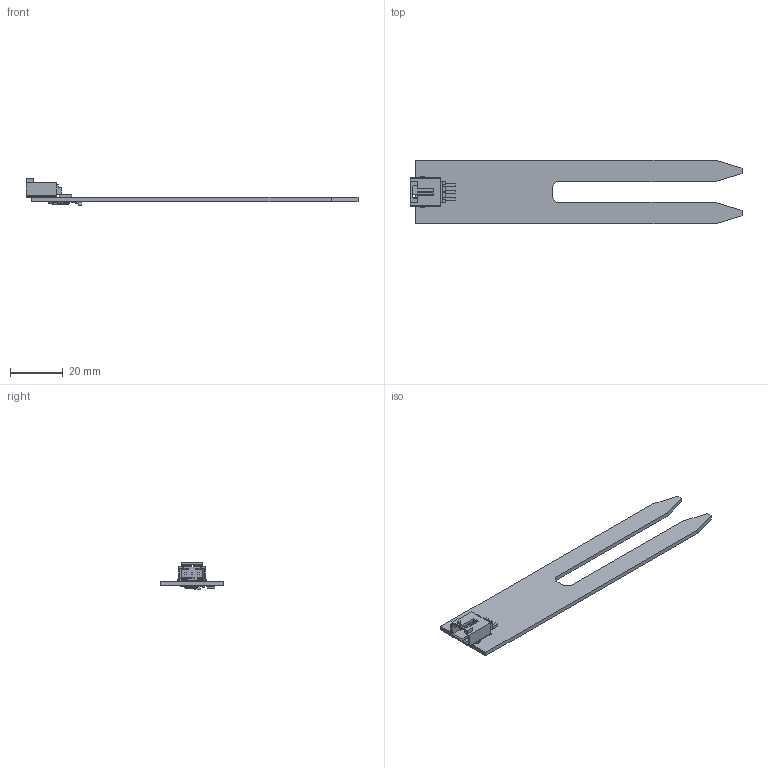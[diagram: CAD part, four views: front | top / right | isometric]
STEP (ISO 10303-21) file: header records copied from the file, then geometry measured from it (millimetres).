
FILE_DESCRIPTION(('Open CASCADE Model'),'2;1');
FILE_NAME('Open CASCADE Shape Model','2023-06-12T15:41:39',('Author'),( 'Open CASCADE'),'Open CASCADE STEP processor 6.8','Open CASCADE 6.8' ,'Unknown');
FILE_SCHEMA(('AUTOMOTIVE_DESIGN { 1 0 10303 214 1 1 1 1 }'));
Length unit declared in the file: millimetre
Products named in the file (53): PCB; Board; R1; 5845255936; Extruded; 5845255744; FB1; 5845256320; 5845256128; C1; 5845255552; 5845255360; L1; 5845255168; U2; User_Library-SOT-23-1; User_Library-SOT-23-1_1_1; User_Library-SOT-23-1_2_1; User_Library-SOT-23-1_3_1; User_Library-SOT-23-1_4_1; User_Library-SOT-23-1_5_1; U1; User_Library-TSSOP-20-1; User_Library-TSSOP-20-1_TSSOP-20_Body_1; User_Library-TSSOP-20-1_TSSOP-20_Pins_1; R8; R5; R3; J1; PCB4; 5845254400; Cylinder; 5237555008; 5237554816; 5237554624; RV1; C5; C4; C3; 5845254976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
Assembly tree (69 placements, depth 4):
  PCB
    Board
    R1
      5845255936
        Extruded
      5845255744
        Extruded
    FB1
      5845256320
        Extruded
      5845256128
        Extruded
    C1
      5845255552
        Extruded
      5845255360
        Extruded
    L1
      5845255168
        Extruded
    U2
      User_Library-SOT-23-1
        User_Library-SOT-23-1_1_1
        User_Library-SOT-23-1_2_1
        User_Library-SOT-23-1_3_1
        User_Library-SOT-23-1_4_1
        User_Library-SOT-23-1_5_1
    U1
      User_Library-TSSOP-20-1
        User_Library-TSSOP-20-1_TSSOP-20_Body_1
        User_Library-TSSOP-20-1_TSSOP-20_Pins_1
    R8
      5845255744
        Extruded
      5845255936
        Extruded
    R5
      5845255360
        Extruded
      5845255552
        Extruded
    R3
      5845255360
        Extruded
      5845255552
        Extruded
    J1
      PCB4
      5845254400  x2
        Cylinder
      5237555008
        Extruded
      5237554816
        Extruded
      5237554624  x3
        Extruded
    RV1
      5845255360
        Extruded
      5845255552
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Bounding box: 125.69 x 24.13 x 9.99 mm (x, y, z)
Volume: 4168.6 mm3; surface area: 6657.8 mm2
Topology: 39 solids, 39 shells, 607 faces, 1544 edges, 1010 vertices
Faces by surface type: plane 454, cylinder 139, bspline 14
Full cylindrical faces by diameter (mm): 2.794 x2, 3.81 x2
Entity records: 20086 total; most frequent: CARTESIAN_POINT 4559, ORIENTED_EDGE 2682, DIRECTION 2325, EDGE_CURVE 1341, LINE 1003, VECTOR 1003, VERTEX_POINT 880, AXIS2_PLACEMENT_3D 661
